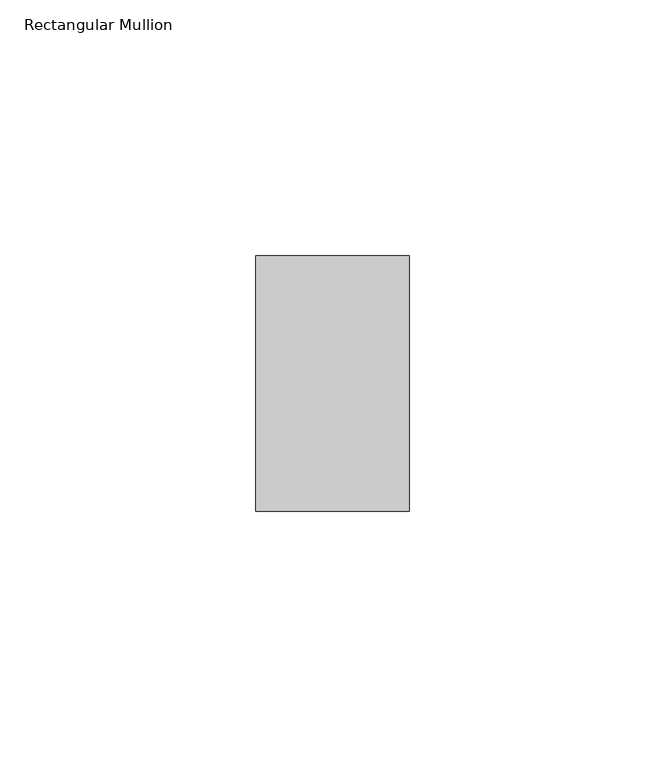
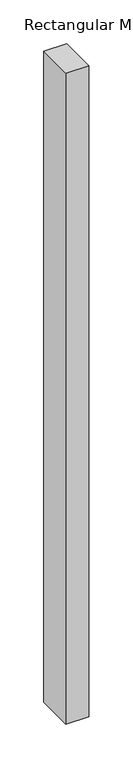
"""IFC4 building model written with IfcOpenShell, lengths in millimetres: member geometry, Rectangular Mullion : ARQ_REJA_MULL_50x30mm."""

from ifc_helpers import new_model, si_unit, frame, origin, place, context, project, spatial, polyline, outline, extrude, source, transform, mapped, element, save


def rectangular_mullion_d8214069(model_context):
    return source(origin(), model_context, "Body", "SweptSolid", [
        extrude(outline(polyline([(0.0, 25.0), (0.0, -25.0), (-30.0, -25.0), (-30.0, 25.0), (0.0, 25.0)])), frame((0.0, 0.0, -904.174702), z_axis=(0.0, 0.0, 1.0), x_axis=(1.0, 0.0, 0.0)), (0.0, 0.0, 1.0), 904.174702),
    ])


if __name__ == "__main__":
    model = new_model("IFC4")
    model_context = context("Model", 3, world=origin())
    ifc_project = project(units=[si_unit("LENGTHUNIT", "METRE", prefix="MILLI")], contexts=[model_context])
    site = spatial("IfcSite", under=ifc_project)
    building = spatial("IfcBuilding", under=site)
    placement = place(None, origin())
    rectangular_mullion_shape = rectangular_mullion_d8214069(model_context)
    element("IfcMember", 1, ObjectType="Rectangular Mullion : ARQ_REJA_MULL_50x30mm", at=placement, inside=building, context=model_context, shape_type="MappedRepresentation", body=[
        mapped(rectangular_mullion_shape, transform((0.0, 0.0, 0.0), x_axis=(1.0, 0.0, 0.0), y_axis=(0.0, 1.0, 0.0), z_axis=(0.0, 0.0, 1.0))),
    ])
    save(model, "model.ifc")
